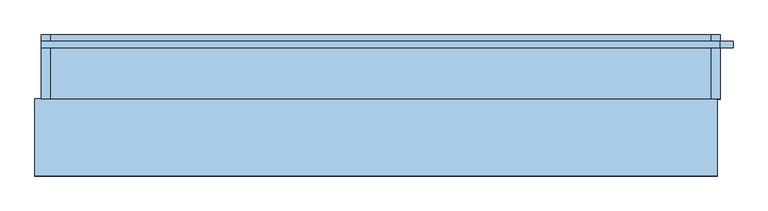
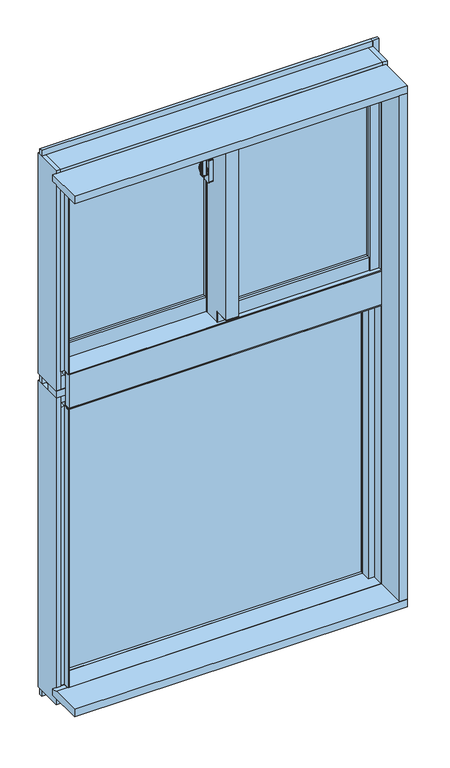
"""IFC4 building model written with IfcOpenShell, lengths in millimetres: window geometry, FNSⅡ100R_非防火_面付枠_段窓_分解無目 : 隠蔽突出排煙/FIX."""

import ifcopenshell
import ifcopenshell.guid

model = None  # the IFC model being written
_history = None  # IfcOwnerHistory: only IFC2X3 demands one
_inside = {}  # id of a spatial element -> (the spatial element, [elements in it])
_under = {}  # id of a project, library or spatial element -> (it, [spatial elements below it])
_declared = {}  # id of a project -> (the project, [libraries it declares])
_typed = {}  # id of a type object -> (the type object, [elements of that type])
_made_of = {}  # id of a material, layer set ... -> (it, [elements and type objects made of it])


def new_model(schema):
    """Start an empty IFC model of exactly this schema.

    Asked for "IFC4X3", IfcOpenShell would pick the latest addendum, in which some entities
    have other attributes; the version numbers below select the first issue.
    IFC2X3 requires an IfcOwnerHistory on every rooted entity: one is made here for all.
    """
    global model, _history
    if schema == "IFC4X3":
        model = ifcopenshell.file(schema_version=(4, 3, 0, 0))
    else:
        model = ifcopenshell.file(schema=schema)
    _inside.clear()
    _under.clear()
    _declared.clear()
    _typed.clear()
    _made_of.clear()
    _history = None
    if model.schema == "IFC2X3":
        org = make("IfcOrganization", Name="unknown")
        user = make(
            "IfcPersonAndOrganization",
            ThePerson=make("IfcPerson", FamilyName="unknown"),
            TheOrganization=org,
        )
        app = make(
            "IfcApplication",
            ApplicationDeveloper=org,
            Version="unknown",
            ApplicationFullName="unknown",
            ApplicationIdentifier="unknown",
        )
        _history = make(
            "IfcOwnerHistory",
            OwningUser=user,
            OwningApplication=app,
            ChangeAction="ADDED",
            CreationDate=0,
        )
    return model


def make(cls, **values):
    """One entity of the class cls with the attributes given. An attribute that is None is left unset."""
    return model.create_entity(
        cls, **{name: value for name, value in values.items() if value is not None}
    )


def rooted(cls, **values):
    """An entity with a GlobalId (a new one), such as an element, a storey or a relation."""
    return make(cls, GlobalId=ifcopenshell.guid.new(), OwnerHistory=_history, **values)


def si_unit(unit_type, name, prefix=None):
    """IfcSIUnit, for example si_unit("LENGTHUNIT", "METRE", prefix="MILLI")."""
    return make("IfcSIUnit", UnitType=unit_type, Prefix=prefix, Name=name)


def assignment(units):
    """IfcUnitAssignment: the units of a project."""
    return None if units is None else make("IfcUnitAssignment", Units=units)


def point(xyz):
    """IfcCartesianPoint."""
    return None if xyz is None else make("IfcCartesianPoint", Coordinates=xyz)


def direction(xyz):
    """IfcDirection."""
    return None if xyz is None else make("IfcDirection", DirectionRatios=xyz)


def frame(location, z_axis=None, x_axis=None):
    """IfcAxis2Placement3D, a coordinate frame: its origin and axes. An axis left out is left unset."""
    return make(
        "IfcAxis2Placement3D",
        Location=point(location),
        Axis=direction(z_axis),
        RefDirection=direction(x_axis),
    )


def frame_2d(location, x_axis=None):
    """IfcAxis2Placement2D, a coordinate frame in the plane: its origin and x axis."""
    return make(
        "IfcAxis2Placement2D", Location=point(location), RefDirection=direction(x_axis)
    )


def origin():
    """The frame at (0, 0, 0) with its axes left unset."""
    return frame((0.0, 0.0, 0.0))


def place(relative_to, where):
    """IfcLocalPlacement: puts the frame where relative to a parent placement (None: the world)."""
    return make(
        "IfcLocalPlacement", PlacementRelTo=relative_to, RelativePlacement=where
    )


def context(
    kind, dimensions, precision=None, world=None, true_north=None, identifier=None
):
    """IfcGeometricRepresentationContext, for example the 3D "Model" context."""
    return make(
        "IfcGeometricRepresentationContext",
        ContextIdentifier=identifier,
        ContextType=kind,
        CoordinateSpaceDimension=dimensions,
        Precision=precision,
        WorldCoordinateSystem=world,
        TrueNorth=true_north,
    )


def project(units=None, contexts=None):
    """IfcProject with its units and contexts."""
    return rooted(
        "IfcProject",
        Name="project",
        RepresentationContexts=contexts,
        UnitsInContext=assignment(units),
    )


def spatial(cls, under=None, at=None, **own):
    """A site, building, storey or space (cls), placed at a placement, below another one or the project."""
    s = rooted(cls, ObjectPlacement=at, **own)
    if under is not None:
        _under.setdefault(under.id(), (under, []))[1].append(s)
    return s


def polyline(points):
    """IfcPolyline through the points."""
    return make("IfcPolyline", Points=[point(p) for p in points])


def circle_curve(where, radius):
    """IfcCircle in the frame where."""
    return make("IfcCircle", Position=where, Radius=radius)


def trimmed(basis, trim1, trim2, sense, master):
    """IfcTrimmedCurve: the piece of a basis curve between two trims."""
    return make(
        "IfcTrimmedCurve",
        BasisCurve=basis,
        Trim1=trim1,
        Trim2=trim2,
        SenseAgreement=sense,
        MasterRepresentation=master,
    )


def segment(curve, same_sense, transition):
    """IfcCompositeCurveSegment."""
    return make(
        "IfcCompositeCurveSegment",
        Transition=transition,
        SameSense=same_sense,
        ParentCurve=curve,
    )


def composite_curve(segments, self_intersect=None):
    """IfcCompositeCurve: segments joined end to end."""
    return make("IfcCompositeCurve", Segments=segments, SelfIntersect=self_intersect)


def outline(outer, holes=None, kind="AREA"):
    """IfcArbitraryClosedProfileDef: a profile drawn as a closed curve; with holes, ...WithVoids."""
    if holes is None:
        return make("IfcArbitraryClosedProfileDef", ProfileType=kind, OuterCurve=outer)
    return make(
        "IfcArbitraryProfileDefWithVoids",
        ProfileType=kind,
        OuterCurve=outer,
        InnerCurves=holes,
    )


def extrude(swept, where, along, depth):
    """IfcExtrudedAreaSolid: the profile swept, set in the frame where, extruded along a direction by depth."""
    return make(
        "IfcExtrudedAreaSolid",
        SweptArea=swept,
        Position=where,
        ExtrudedDirection=direction(along),
        Depth=depth,
    )


def faces_of(points, faces, orient=None, outer=None):
    """IfcFace entities. A face is a list of loops; a loop is a list of indices into points, from 0.

    orient and outer hold one flag for each loop. By default every Orientation is true, the
    first loop of a face is its IfcFaceOuterBound and the others are IfcFaceBound.
    """
    made = []
    for i, loops in enumerate(faces):
        bounds = []
        for j, loop in enumerate(loops):
            is_outer = j == 0 if outer is None else outer[i][j]
            bounds.append(
                make(
                    "IfcFaceOuterBound" if is_outer else "IfcFaceBound",
                    Bound=make("IfcPolyLoop", Polygon=[points[k] for k in loop]),
                    Orientation=True if orient is None else orient[i][j],
                )
            )
        made.append(make("IfcFace", Bounds=bounds))
    return made


def faceted_brep(points, faces, orient=None, outer=None, voids=None):
    """IfcFacetedBrep: a solid bounded by flat faces; with voids (closed shells), ...WithVoids."""
    shared = [point(p) for p in points]
    hull = make("IfcClosedShell", CfsFaces=faces_of(shared, faces, orient, outer))
    if voids is None:
        return make("IfcFacetedBrep", Outer=hull)
    return make(
        "IfcFacetedBrepWithVoids",
        Outer=hull,
        Voids=[
            make(cls, CfsFaces=faces_of(shared, fs, o, b)) for cls, fs, o, b in voids
        ],
    )


def shape(context_of_items, identifier, shape_type, items):
    """IfcShapeRepresentation: the items that make up one representation, for example the "Body"."""
    return make(
        "IfcShapeRepresentation",
        ContextOfItems=context_of_items,
        RepresentationIdentifier=identifier,
        RepresentationType=shape_type,
        Items=items,
    )


def source(mapping_origin, context_of_items, identifier, shape_type, items):
    """IfcRepresentationMap: a shape defined once, which mapped items show again and again."""
    return make(
        "IfcRepresentationMap",
        MappingOrigin=mapping_origin,
        MappedRepresentation=shape(context_of_items, identifier, shape_type, items),
    )


def transform(
    local_origin,
    x_axis=None,
    y_axis=None,
    z_axis=None,
    scale=None,
    scale2=None,
    scale3=None,
    uniform=True,
):
    """IfcCartesianTransformationOperator3D, or its non-uniform kind. x_axis, y_axis, z_axis: its Axis1, 2, 3."""
    if uniform:
        return make(
            "IfcCartesianTransformationOperator3D",
            Axis1=direction(x_axis),
            Axis2=direction(y_axis),
            LocalOrigin=point(local_origin),
            Scale=scale,
            Axis3=direction(z_axis),
        )
    return make(
        "IfcCartesianTransformationOperator3DnonUniform",
        Axis1=direction(x_axis),
        Axis2=direction(y_axis),
        LocalOrigin=point(local_origin),
        Scale=scale,
        Axis3=direction(z_axis),
        Scale2=scale2,
        Scale3=scale3,
    )


def mapped(mapping_source, mapping_target):
    """IfcMappedItem: shows the shape of a source again, moved by a transform."""
    return make(
        "IfcMappedItem", MappingSource=mapping_source, MappingTarget=mapping_target
    )


def made_of(thing, what):
    """Note that an element or type object is made of a material, layer set ...; save() writes the relation."""
    if what is not None:
        _made_of.setdefault(what.id(), (what, []))[1].append(thing)
    return thing


def element(
    cls,
    number,
    at=None,
    inside=None,
    cuts=None,
    type_object=None,
    material=None,
    context=None,
    identifier="Body",
    shape_type=None,
    held_by="IfcProductDefinitionShape",
    body=None,
    shapes=None,
    **own,
):
    """One element of the class cls, such as IfcWall. Its Tag is "e" and its number.

    at: its placement. inside: the storey or other place that contains it. cuts: it is an
    opening in that element (IfcRelVoidsElement). A single representation is given by context,
    identifier, shape_type and body (its items); several are given by shapes. held_by: the class
    of the entity that holds the representations. save() writes the other relations.
    """
    e = rooted(cls, Tag="e%d" % number, ObjectPlacement=at, **own)
    if body is not None:
        shapes = [shape(context, identifier, shape_type, body)]
    if shapes is not None:
        e.Representation = make(held_by, Representations=shapes)
    if inside is not None:
        _inside.setdefault(inside.id(), (inside, []))[1].append(e)
    if cuts is not None:
        rooted(
            "IfcRelVoidsElement", RelatingBuildingElement=cuts, RelatedOpeningElement=e
        )
    if type_object is not None:
        _typed.setdefault(type_object.id(), (type_object, []))[1].append(e)
    return made_of(e, material)


def aggregate(whole, parts):
    """IfcRelAggregates: a whole, such as a stair, and the parts it consists of."""
    return rooted("IfcRelAggregates", RelatingObject=whole, RelatedObjects=parts)


def save(model, path):
    """Write the relations noted so far, then the file.

    IfcRelAggregates (storeys below a building ...), IfcRelContainedInSpatialStructure (elements
    in a storey), IfcRelDefinesByType, IfcRelAssociatesMaterial and IfcRelDeclares: one each for
    every whole, place, type object, material and project.
    """
    for whole, parts in _under.values():
        aggregate(whole, parts)
    for where, things in _inside.values():
        rooted(
            "IfcRelContainedInSpatialStructure",
            RelatedElements=things,
            RelatingStructure=where,
        )
    for kind, things in _typed.values():
        rooted("IfcRelDefinesByType", RelatedObjects=things, RelatingType=kind)
    for what, things in _made_of.values():
        rooted("IfcRelAssociatesMaterial", RelatedObjects=things, RelatingMaterial=what)
    for by, libraries in _declared.values():
        rooted("IfcRelDeclares", RelatingContext=by, RelatedDefinitions=libraries)
    model.write(path)


def plane_surface(at):
    """IfcPlane: the flat surface through the origin of the frame at, square to its z axis."""
    return make("IfcPlane", Position=at)


def cylinder_surface(at, radius):
    """IfcCylindricalSurface: all points at the distance radius from the z axis of the frame at."""
    return make("IfcCylindricalSurface", Position=at, Radius=radius)


def revolved_surface(curve, axis_point, axis_direction):
    """IfcSurfaceOfRevolution: the curve turned about the line through axis_point along axis_direction."""
    return make(
        "IfcSurfaceOfRevolution",
        SweptCurve=make("IfcArbitraryOpenProfileDef", ProfileType="CURVE", Curve=curve),
        AxisPosition=make("IfcAxis1Placement", Location=point(axis_point), Axis=direction(axis_direction)),
    )


def advanced_brep(points, edges, surfaces, faces):
    """IfcAdvancedBrep: a solid bounded by faces that lie on surfaces and meet in shared edges.

    An edge is (start, end): straight between two places in points (the first is 0);
    or (start, end, curve); or (start, end, curve, False) where it runs against its curve.
    A face is (place in surfaces, loops), or (place, loops, False) where it looks against
    its surface's normal. A loop lists edges by number (the first is 1), with a minus sign
    where the edge is run from its end to its start. The first loop is the outer one.
    """
    corners = [point(p) for p in points]
    vertices = [make("IfcVertexPoint", VertexGeometry=c) for c in corners]
    made = []
    for start, end, *more in edges:
        made.append(
            make(
                "IfcEdgeCurve",
                EdgeStart=vertices[start],
                EdgeEnd=vertices[end],
                EdgeGeometry=more[0] if more else make("IfcPolyline", Points=[corners[start], corners[end]]),
                SameSense=more[1] if len(more) > 1 else True,
            )
        )
    hull = []
    for where, loops, *sense in faces:
        bounds = []
        for j, loop in enumerate(loops):
            ring = [make("IfcOrientedEdge", EdgeElement=made[abs(k) - 1], Orientation=k > 0) for k in loop]
            bounds.append(
                make(
                    "IfcFaceOuterBound" if j == 0 else "IfcFaceBound",
                    Bound=make("IfcEdgeLoop", EdgeList=ring),
                    Orientation=True,
                )
            )
        hull.append(make("IfcAdvancedFace", Bounds=bounds, FaceSurface=surfaces[where], SameSense=sense[0] if sense else True))
    return make("IfcAdvancedBrep", Outer=make("IfcClosedShell", CfsFaces=hull))


def window_ac38dc56(model_context):
    return source(origin(), model_context, "Body", "SolidModel", [
        extrude(outline(composite_curve([segment(polyline([(-39.0, 34.6), (-39.0, 26.4)]), True, "CONTINUOUS"), segment(trimmed(circle_curve(frame_2d((-41.0, 26.4)), 2.0), [point((-39.0, 26.4))], [point((-41.3606557, 24.4327869))], False, "CARTESIAN"), True, "CONTINUOUS"), segment(polyline([(-41.3606557, 24.4327869), (-52.3606557, 26.4494536)]), True, "CONTINUOUS"), segment(trimmed(circle_curve(frame_2d((-52.0, 28.4166667)), 2.0), [point((-52.3606557, 26.4494536))], [point((-54.0, 28.4166667))], False, "CARTESIAN"), True, "CONTINUOUS"), segment(polyline([(-54.0, 28.4166667), (-54.0, 32.5833333)]), True, "CONTINUOUS"), segment(trimmed(circle_curve(frame_2d((-52.0, 32.5833333)), 2.0), [point((-54.0, 32.5833333))], [point((-52.3606557, 34.5505464))], False, "CARTESIAN"), True, "CONTINUOUS"), segment(polyline([(-52.3606557, 34.5505464), (-41.3606557, 36.5672131)]), True, "CONTINUOUS"), segment(trimmed(circle_curve(frame_2d((-41.0, 34.6)), 2.0), [point((-41.3606557, 36.5672131))], [point((-39.0, 34.6))], False, "CARTESIAN"), True, "CONTINUOUS")], self_intersect=False)), frame((0.0, 0.0, 2450.0), z_axis=(0.0, 0.0, 1.0), x_axis=(1.0, 0.0, 0.0)), (0.0, 0.0, 1.0), 100.0),
        advanced_brep(
        [(-37.5, 38.8234285, 2481.7333311), (-45.5, 38.8234285, 2481.7333311), (-45.5, 38.4351999, 2480.2844424), (-39.0, 38.4351999, 2480.2844424), (-39.0, 36.6234666, 2473.5229616), (-37.5, 36.6234666, 2473.5229616), (-39.0, 36.6466117, 2439.3190372), (-45.5, 36.6466117, 2439.3190372), (-45.5, 36.907084, 2437.8418256), (-37.5, 36.907084, 2437.8418256), (-37.5, 35.4310745, 2446.2126915), (-39.0, 35.4310745, 2446.2126915)],
        [
            (0, 1),
            (1, 2),
            (2, 3),
            (3, 4),
            (4, 5),
            (5, 0),
            (6, 7),
            (7, 8),
            (8, 9),
            (9, 10),
            (10, 11),
            (11, 6),
            (0, 9, circle_curve(frame((-37.5, 33.0, 2460.0), z_axis=(-1.0, 0.0, 0.0), x_axis=(0.0, 0.25881904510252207, 0.965925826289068)), 22.5)),
            (8, 1, circle_curve(frame((-45.5, 33.0, 2460.0), z_axis=(1.0, 0.0, 0.0), x_axis=(0.0, 0.25881904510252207, 0.965925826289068)), 22.5)),
            (7, 2, circle_curve(frame((-45.5, 33.0, 2460.0), z_axis=(1.0, 0.0, 0.0), x_axis=(0.0, 0.25881904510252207, 0.965925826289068)), 21.0)),
            (6, 3, circle_curve(frame((-39.0, 33.0, 2460.0), z_axis=(1.0, 0.0, 0.0), x_axis=(0.0, 0.25881904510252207, 0.965925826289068)), 21.0)),
            (11, 4, circle_curve(frame((-39.0, 33.0, 2460.0), z_axis=(-1.0, 0.0, 0.0), x_axis=(0.0, -1.0, 0.0)), 14.0)),
            (5, 10, circle_curve(frame((-37.5, 33.0, 2460.0), z_axis=(1.0, 0.0, 0.0), x_axis=(0.0, -1.0, 0.0)), 14.0)),
        ],
        [
            plane_surface(frame((-43.5470497, 33.0, 2460.0), z_axis=(0.0, -0.965925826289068, 0.25881904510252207), x_axis=(0.0, 0.25881904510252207, 0.965925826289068))),
            plane_surface(frame((-43.5470497, 33.0, 2460.0), z_axis=(0.0, -0.9848077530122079, -0.17364817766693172), x_axis=(0.0, 0.17364817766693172, -0.9848077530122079))),
            cylinder_surface(frame((-43.5470497, 33.0, 2460.0), z_axis=(-1.0, 0.0, 0.0), x_axis=(0.0, 0.25881904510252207, 0.965925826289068)), 22.5),
            plane_surface(frame((-45.5, 33.0, 2460.0), z_axis=(-1.0, 0.0, 0.0), x_axis=(0.0, 0.25881904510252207, 0.965925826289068))),
            revolved_surface(polyline([(-45.5, 38.43519994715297, 2480.2844423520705), (-39.0, 38.43519994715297, 2480.2844423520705)]), (-43.5470497, 33.0, 2460.0), (-1.0, 0.0, 0.0)),
            plane_surface(frame((-39.0, 33.0, 2460.0), z_axis=(-1.0, 0.0, 0.0), x_axis=(0.0, 0.25881904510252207, 0.965925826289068))),
            plane_surface(frame((-37.5, 33.0, 2460.0), z_axis=(1.0, 0.0, 0.0), x_axis=(0.0, 0.25881904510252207, 0.965925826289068))),
            cylinder_surface(frame((-37.5, 33.0, 2460.0), z_axis=(-1.0, 0.0, 0.0), x_axis=(0.0, -1.0, 0.0)), 14.0),
        ],
        [
            (0, [[1, 2, 3, 4, 5, 6]]),
            (1, [[7, 8, 9, 10, 11, 12]]),
            (2, [[-1, 13, -9, 14]]),
            (3, [[-2, -14, -8, 15]]),
            (4, [[-3, -15, -7, 16]]),
            (5, [[-16, -12, 17, -4]]),
            (6, [[-13, -6, 18, -10]]),
            (7, [[-17, -11, -18, -5]]),
        ],
    ),
        extrude(outline(composite_curve([segment(trimmed(circle_curve(frame_2d((33.0, 2460.0)), 11.5), [point((44.5, 2460.0))], [point((21.5, 2460.0))], False, "CARTESIAN"), True, "CONTINUOUS"), segment(trimmed(circle_curve(frame_2d((33.0, 2460.0)), 11.5), [point((21.5, 2460.0))], [point((44.5, 2460.0))], False, "CARTESIAN"), True, "CONTINUOUS")], self_intersect=False)), frame((-37.5, 0.0, 0.0), z_axis=(1.0, 0.0, 0.0), x_axis=(0.0, 1.0, 0.0)), (0.0, 0.0, 1.0), 2.5),
        extrude(outline(composite_curve([segment(polyline([(24.0, 2497.5), (42.0, 2497.5)]), True, "CONTINUOUS"), segment(trimmed(circle_curve(frame_2d((42.0, 2495.5)), 2.0), [point((42.0, 2497.5))], [point((44.0, 2495.5))], False, "CARTESIAN"), True, "CONTINUOUS"), segment(polyline([(44.0, 2495.5), (44.0, 2424.5)]), True, "CONTINUOUS"), segment(trimmed(circle_curve(frame_2d((42.0, 2424.5)), 2.0), [point((44.0, 2424.5))], [point((42.0, 2422.5))], False, "CARTESIAN"), True, "CONTINUOUS"), segment(polyline([(42.0, 2422.5), (24.0, 2422.5)]), True, "CONTINUOUS"), segment(trimmed(circle_curve(frame_2d((24.0, 2424.5)), 2.0), [point((24.0, 2422.5))], [point((22.0, 2424.5))], False, "CARTESIAN"), True, "CONTINUOUS"), segment(polyline([(22.0, 2424.5), (22.0, 2495.5)]), True, "CONTINUOUS"), segment(trimmed(circle_curve(frame_2d((24.0, 2495.5)), 2.0), [point((22.0, 2495.5))], [point((24.0, 2497.5))], False, "CARTESIAN"), True, "CONTINUOUS")], self_intersect=False)), frame((-35.0, 0.0, 0.0), z_axis=(1.0, 0.0, 0.0), x_axis=(0.0, 1.0, 0.0)), (0.0, 0.0, 1.0), 15.0),
        extrude(outline(polyline([(20.0, 24.0), (468.0, 24.0), (468.0, 18.0), (20.0, 18.0), (20.0, 24.0)])), frame((0.0, 0.0, 2008.0), z_axis=(0.0, 0.0, 1.0), x_axis=(1.0, 0.0, 0.0)), (0.0, 0.0, 1.0), 562.0),
        extrude(outline(polyline([(20.0, 42.0), (468.0, 42.0), (468.0, 36.0), (20.0, 36.0), (20.0, 42.0)])), frame((0.0, 0.0, 2008.0), z_axis=(0.0, 0.0, 1.0), x_axis=(1.0, 0.0, 0.0)), (0.0, 0.0, 1.0), 562.0),
        extrude(outline(polyline([(-468.0, 82.0), (-20.0, 82.0), (-20.0, 76.0), (-468.0, 76.0), (-468.0, 82.0)])), frame((0.0, 0.0, 2008.0), z_axis=(0.0, 0.0, 1.0), x_axis=(1.0, 0.0, 0.0)), (0.0, 0.0, 1.0), 562.0),
        extrude(outline(polyline([(-468.0, 100.0), (-20.0, 100.0), (-20.0, 94.0), (-468.0, 94.0), (-468.0, 100.0)])), frame((0.0, 0.0, 2008.0), z_axis=(0.0, 0.0, 1.0), x_axis=(1.0, 0.0, 0.0)), (0.0, 0.0, 1.0), 562.0),
        faceted_brep([(-500.0, 79.0, 2610.0), (-489.5, 79.0, 2610.0), (-489.5, 66.0, 2610.0), (-468.0, 66.0, 2610.0), (-468.0, 108.0, 2610.0), (-500.0, 108.0, 2610.0), (-468.0, 66.0, 1960.0), (-468.0, 79.0, 1960.0), (-468.0, 79.0, 1920.0), (-468.0, 108.0, 1920.0), (-500.0, 79.0, 1920.0), (-500.0, 108.0, 1920.0), (-489.5, 79.0, 1960.0), (-489.5, 66.0, 1960.0)], [[[0, 1, 2, 3, 4, 5]], [[4, 3, 6, 7, 8, 9]], [[10, 0, 5, 11]], [[8, 10, 11, 9]], [[1, 0, 10, 8, 7, 12]], [[2, 1, 12, 13]], [[3, 2, 13, 6]], [[5, 4, 9, 11]], [[12, 7, 6, 13]]]),
        faceted_brep([(20.0, 79.0, 1960.0), (-20.0, 79.0, 1960.0), (-20.0, 79.0, 1920.0), (20.0, 79.0, 1920.0), (-20.0, 108.0, 1920.0), (20.0, 108.0, 1920.0), (-20.0, 65.5, 2610.0), (-1.8, 65.5, 2610.0), (-1.8, 53.1, 2610.0), (20.0, 53.1, 2610.0), (20.0, 108.0, 2610.0), (-20.0, 108.0, 2610.0), (-20.0, 65.5, 1960.0), (-1.8, 65.5, 1960.0), (-1.8, 53.1, 1960.0), (20.0, 53.1, 1960.0)], [[[0, 1, 2, 3]], [[4, 5, 3, 2]], [[6, 7, 8, 9, 10, 11]], [[7, 6, 12, 13]], [[8, 7, 13, 14]], [[9, 8, 14, 15]], [[10, 9, 15, 0, 3, 5]], [[11, 10, 5, 4]], [[6, 11, 4, 2, 1, 12]], [[1, 0, 15, 14, 13, 12]]]),
        faceted_brep([(-15.0, 53.1, 2610.0), (-20.0, 53.1, 2610.0), (-20.0, 0.0, 2610.0), (-15.0, 0.0, 2610.0), (20.0, 12.0, 2610.0), (15.0, 12.0, 2610.0), (15.0, 0.0, 2610.0), (20.0, 0.0, 2610.0), (-20.0, 53.1, 1960.0), (-20.0, 0.0, 1960.0), (-20.0, 0.0, 1996.5), (-20.0, -50.0, 1996.5), (-20.0, -50.0, 2581.0), (-20.0, 0.0, 2581.0), (15.0, -42.0, 2581.0), (15.0, -42.0, 1996.5), (-15.0, -42.0, 1996.5), (-15.0, -42.0, 2581.0), (-15.0, 53.1, 1960.0), (-15.0, 0.0, 2581.0), (-15.0, 0.0, 1996.5), (-15.0, 0.0, 1960.0), (20.0, 12.0, 1960.0), (20.0, 0.0, 2581.0), (20.0, -50.0, 2581.0), (20.0, -50.0, 1996.5), (20.0, 0.0, 1996.5), (20.0, 0.0, 1960.0), (15.0, 12.0, 1960.0), (15.0, 0.0, 1960.0), (15.0, 0.0, 1996.5), (15.0, 0.0, 2581.0)], [[[0, 1, 2, 3]], [[4, 5, 6, 7]], [[1, 8, 9, 10, 11, 12, 13, 2]], [[14, 15, 16, 17]], [[18, 0, 3, 19, 17, 16, 20, 21]], [[22, 4, 7, 23, 24, 25, 26, 27]], [[1, 0, 18, 8]], [[8, 18, 21, 9]], [[28, 22, 27, 29]], [[12, 11, 25, 24]], [[5, 4, 22, 28]], [[5, 28, 29, 30, 15, 14, 31, 6]], [[20, 10, 9, 21]], [[26, 30, 29, 27]], [[10, 20, 16, 15, 30, 26, 25, 11]], [[19, 13, 12, 24, 23, 31, 14, 17]], [[13, 19, 3, 2]], [[31, 23, 7, 6]]]),
        faceted_brep([(15.0, 12.0, 2610.0), (20.0, 12.0, 2610.0), (20.0, 53.1, 2610.0), (-15.0, 53.1, 2610.0), (-15.0, 0.0, 2610.0), (15.0, 0.0, 2610.0), (-15.0, -42.0, 2581.0), (-15.0, -42.0, 1996.5), (15.0, -42.0, 1996.5), (15.0, -42.0, 2581.0), (20.0, 53.1, 1960.0), (-15.0, 53.1, 1960.0), (15.0, 0.0, 2581.0), (-15.0, 0.0, 2581.0), (20.0, 12.0, 1960.0), (15.0, 12.0, 1960.0), (15.0, 0.0, 1960.0), (-15.0, 0.0, 1960.0), (-15.0, 0.0, 1996.5), (15.0, 0.0, 1996.5)], [[[0, 1, 2, 3, 4, 5]], [[6, 7, 8, 9]], [[3, 2, 10, 11]], [[12, 13, 6, 9]], [[11, 10, 14, 15, 16, 17]], [[2, 1, 14, 10]], [[3, 11, 17, 18, 7, 6, 13, 4]], [[19, 18, 17, 16]], [[18, 19, 8, 7]], [[13, 12, 5, 4]], [[15, 0, 5, 12, 9, 8, 19, 16]], [[1, 0, 15, 14]]]),
        extrude(outline(polyline([(468.0, 0.0), (468.0, 8.0), (489.5, 8.0), (489.5, 21.0), (497.0, 21.0), (497.0, 0.0), (468.0, 0.0)])), frame((0.0, 0.0, 1963.0), z_axis=(0.0, 0.0, 1.0), x_axis=(1.0, 0.0, 0.0)), (0.0, 0.0, 1.0), 647.0),
        extrude(outline(polyline([(468.0, 50.0), (500.0, 50.0), (500.0, 21.0), (489.5, 21.0), (489.5, 8.0), (468.0, 8.0), (468.0, 50.0)])), frame((0.0, 0.0, 1960.0), z_axis=(0.0, 0.0, 1.0), x_axis=(1.0, 0.0, 0.0)), (0.0, 0.0, 1.0), 650.0),
        extrude(outline(polyline([(-1.85, 65.5), (-1.85, 58.0), (-20.0, 58.0), (-20.0, 65.5), (-1.85, 65.5)])), frame((0.0, 0.0, 1960.0), z_axis=(0.0, 0.0, 1.0), x_axis=(1.0, 0.0, 0.0)), (0.0, 0.0, 1.0), 650.0),
        extrude(outline(polyline([(-497.0, 79.0), (-489.5, 79.0), (-489.5, 66.0), (-468.0, 66.0), (-468.0, 58.0), (-497.0, 58.0), (-497.0, 79.0)])), frame((0.0, 0.0, 1960.0), z_axis=(0.0, 0.0, 1.0), x_axis=(1.0, 0.0, 0.0)), (0.0, 0.0, 1.0), 650.0),
        extrude(outline(polyline([(2.0, 1963.0), (2.0, 2008.0), (10.0, 2008.0), (10.0, 1985.5), (21.0, 1985.5), (21.0, 1963.0), (2.0, 1963.0)])), frame((20.0, 0.0, 0.0), z_axis=(1.0, 0.0, 0.0), x_axis=(0.0, 1.0, 0.0)), (0.0, 0.0, 1.0), 448.0),
        extrude(outline(polyline([(50.0, 1960.0), (21.0, 1960.0), (21.0, 1985.5), (10.0, 1985.5), (10.0, 2008.0), (50.0, 2008.0), (50.0, 1960.0)])), frame((20.0, 0.0, 0.0), z_axis=(1.0, 0.0, 0.0), x_axis=(0.0, 1.0, 0.0)), (0.0, 0.0, 1.0), 448.0),
        extrude(outline(polyline([(60.0, 2008.0), (68.0, 2008.0), (68.0, 1985.5), (79.0, 1985.5), (79.0, 1960.0), (60.0, 1960.0), (60.0, 2008.0)])), frame((-468.0, 0.0, 0.0), z_axis=(1.0, 0.0, 0.0), x_axis=(0.0, 1.0, 0.0)), (0.0, 0.0, 1.0), 448.0),
        extrude(outline(polyline([(108.0, 1920.0), (79.0, 1920.0), (79.0, 1985.5), (68.0, 1985.5), (68.0, 2008.0), (108.0, 2008.0), (108.0, 1920.0)])), frame((-468.0, 0.0, 0.0), z_axis=(1.0, 0.0, 0.0), x_axis=(0.0, 1.0, 0.0)), (0.0, 0.0, 1.0), 448.0),
        extrude(outline(polyline([(23.0, 2590.5), (10.0, 2590.5), (10.0, 2570.0), (2.0, 2570.0), (2.0, 2610.0), (23.0, 2610.0), (23.0, 2590.5)])), frame((20.0, 0.0, 0.0), z_axis=(1.0, 0.0, 0.0), x_axis=(0.0, 1.0, 0.0)), (0.0, 0.0, 1.0), 448.0),
        extrude(outline(polyline([(50.0, 2610.0), (50.0, 2570.0), (10.0, 2570.0), (10.0, 2590.5), (23.0, 2590.5), (23.0, 2610.0), (50.0, 2610.0)])), frame((20.0, 0.0, 0.0), z_axis=(1.0, 0.0, 0.0), x_axis=(0.0, 1.0, 0.0)), (0.0, 0.0, 1.0), 448.0),
        extrude(outline(polyline([(81.0, 2590.5), (68.0, 2590.5), (68.0, 2570.0), (60.0, 2570.0), (60.0, 2610.0), (81.0, 2610.0), (81.0, 2590.5)])), frame((-468.0, 0.0, 0.0), z_axis=(1.0, 0.0, 0.0), x_axis=(0.0, 1.0, 0.0)), (0.0, 0.0, 1.0), 448.0),
        extrude(outline(polyline([(108.0, 2610.0), (108.0, 2570.0), (68.0, 2570.0), (68.0, 2590.5), (81.0, 2590.5), (81.0, 2610.0), (108.0, 2610.0)])), frame((-468.0, 0.0, 0.0), z_axis=(1.0, 0.0, 0.0), x_axis=(0.0, 1.0, 0.0)), (0.0, 0.0, 1.0), 448.0),
        extrude(outline(polyline([(0.0, 2581.0), (-50.0, 2581.0), (-50.0, 2582.0), (-1.0, 2582.0), (-1.0, 2610.0), (0.0, 2610.0), (0.0, 2581.0)])), frame((-20.0, 0.0, 0.0), z_axis=(1.0, 0.0, 0.0), x_axis=(0.0, 1.0, 0.0)), (0.0, 0.0, 1.0), 40.0),
        extrude(outline(polyline([(0.0, 1996.5), (0.0, 1960.0), (-1.0, 1960.0), (-1.0, 1995.5), (-50.0, 1995.5), (-50.0, 1996.5), (0.0, 1996.5)])), frame((-20.0, 0.0, 0.0), z_axis=(1.0, 0.0, 0.0), x_axis=(0.0, 1.0, 0.0)), (0.0, 0.0, 1.0), 40.0),
        extrude(outline(polyline([(-15.0, 80.3), (-15.0, 31.9), (-500.0, 31.9), (-500.0, 80.3), (-15.0, 80.3)])), frame((0.0, 0.0, 2610.0), z_axis=(0.0, 0.0, 1.0), x_axis=(1.0, 0.0, 0.0)), (0.0, 0.0, 1.0), 25.0),
        faceted_brep([(515.0, 80.3, 2635.0), (515.0, 10.0, 2635.0), (-515.0, 10.0, 2635.0), (-515.0, 80.3, 2635.0), (-15.0, 80.3, 2635.0), (-15.0, 31.9, 2635.0), (500.0, 31.9, 2635.0), (500.0, 80.3, 2635.0), (515.0, 80.3, 2610.0), (500.0, 80.3, 2610.0), (-515.0, 80.3, 2610.0), (-15.0, 80.3, 2610.0), (515.0, 110.0, 2610.0), (500.0, 31.9, 2610.0), (-15.0, 31.9, 2610.0), (-515.0, 110.0, 2610.0), (515.0, 110.0, 2645.0), (-515.0, 110.0, 2645.0), (515.0, 10.0, 2645.0), (-515.0, 10.0, 2645.0)], [[[0, 1, 2, 3, 4, 5, 6, 7]], [[8, 0, 7, 9]], [[3, 10, 11, 4]], [[12, 8, 9, 13, 14, 11, 10, 15]], [[16, 12, 15, 17]], [[18, 16, 17, 19]], [[1, 18, 19, 2]], [[12, 16, 18, 1, 0, 8]], [[15, 10, 3, 2, 19, 17]], [[6, 13, 9, 7]], [[11, 14, 5, 4]], [[13, 6, 5, 14]]]),
        extrude(outline(polyline([(31.9, 2610.0), (-10.0, 2610.0), (-10.0, 2613.0), (10.0, 2613.0), (10.0, 2635.0), (31.9, 2635.0), (31.9, 2610.0)])), frame((-500.0, 0.0, 0.0), z_axis=(1.0, 0.0, 0.0), x_axis=(0.0, 1.0, 0.0)), (0.0, 0.0, 1.0), 1000.0),
        faceted_brep([(503.0, -10.0, 1960.0), (503.0, 10.0, 1960.0), (503.0, 10.0, 2613.0), (503.0, -10.0, 2613.0), (500.0, -10.0, 1960.0), (500.0, -10.0, 2613.0), (500.0, 10.0, 2630.0), (515.0, 10.0, 2630.0), (515.0, 14.5, 2630.0), (500.0, 14.5, 2630.0), (500.0, 14.5, 1960.0), (515.0, 14.5, 1960.0), (515.0, 10.0, 1960.0), (500.0, 10.0, 2613.0)], [[[0, 1, 2, 3]], [[4, 0, 3, 5]], [[6, 7, 8, 9]], [[4, 10, 11, 12, 1, 0]], [[6, 13, 2, 1, 12, 7]], [[8, 7, 12, 11]], [[9, 8, 11, 10]], [[10, 4, 5, 13, 6, 9]], [[2, 13, 5, 3]]]),
        faceted_brep([(-515.0, 10.0, 1960.0), (-503.0, 10.0, 1960.0), (-503.0, 10.0, 2613.0), (-500.0, 10.0, 2613.0), (-500.0, 10.0, 2630.0), (-515.0, 10.0, 2630.0), (-500.0, 76.0, 2630.0), (-515.0, 76.0, 2630.0), (-515.0, 76.0, 1960.0), (-500.0, 76.0, 1960.0), (-500.0, -10.0, 1960.0), (-503.0, -10.0, 1960.0), (-503.0, -10.0, 2613.0), (-500.0, -10.0, 2613.0)], [[[0, 1, 2, 3, 4, 5]], [[5, 4, 6, 7]], [[0, 8, 9, 10, 11, 1]], [[1, 11, 12, 2]], [[11, 10, 13, 12]], [[10, 9, 6, 4, 3, 13]], [[7, 6, 9, 8]], [[0, 5, 7, 8]], [[3, 2, 12, 13]]]),
        faceted_brep([(-530.0, 10.0, 2645.0), (-530.0, 110.0, 2645.0), (-530.0, 110.0, 1900.0), (-530.0, 10.0, 1900.0), (-515.0, 110.0, 2645.0), (-515.0, 10.0, 2645.0), (-515.0, 10.0, 1900.0), (-515.0, 110.0, 1900.0), (-515.0, 110.0, 1909.0), (-515.0, 76.0, 1909.0), (-515.0, 76.0, 2610.0), (-515.0, 110.0, 2610.0), (-500.0, 110.0, 2610.0), (-500.0, 110.0, 1909.0), (-500.0, 76.0, 2610.0), (-500.0, 76.0, 1909.0)], [[[0, 1, 2, 3]], [[4, 5, 6, 7, 8, 9, 10, 11]], [[1, 0, 5, 4]], [[2, 7, 6, 3]], [[5, 0, 3, 6]], [[1, 4, 11, 12, 13, 8, 7, 2]], [[12, 11, 10, 14]], [[13, 15, 9, 8]], [[14, 10, 9, 15]], [[12, 14, 15, 13]]]),
        faceted_brep([(515.0, 14.5, 2610.0), (500.0, 14.5, 2610.0), (500.0, 14.5, 1909.0), (515.0, 14.5, 1909.0), (500.0, 110.0, 2610.0), (500.0, 110.0, 1909.0), (515.0, 10.0, 2645.0), (530.0, 10.0, 2645.0), (530.0, 110.0, 2645.0), (515.0, 110.0, 2645.0), (515.0, 10.0, 1900.0), (515.0, 110.0, 1900.0), (530.0, 110.0, 1900.0), (530.0, 10.0, 1900.0), (515.0, 110.0, 2610.0), (515.0, 110.0, 1909.0)], [[[0, 1, 2, 3]], [[1, 4, 5, 2]], [[6, 7, 8, 9]], [[10, 11, 12, 13]], [[1, 0, 14, 4]], [[2, 5, 15, 3]], [[7, 6, 10, 13]], [[8, 7, 13, 12]], [[9, 8, 12, 11, 15, 5, 4, 14]], [[6, 9, 14, 0, 3, 15, 11, 10]]]),
        faceted_brep([(515.0, 76.0, 1909.0), (515.0, 110.0, 1909.0), (-515.0, 110.0, 1909.0), (-515.0, 76.0, 1909.0), (515.0, 10.0, 1944.0), (515.0, 76.0, 1944.0), (-515.0, 76.0, 1944.0), (-515.0, 10.0, 1944.0), (500.0, 37.25, 1944.0), (500.0, 18.8, 1944.0), (-15.0, 18.8, 1944.0), (-15.0, 37.25, 1944.0), (515.0, 110.0, 1900.0), (515.0, 10.0, 1900.0), (-515.0, 10.0, 1900.0), (-515.0, 110.0, 1900.0), (500.0, 18.8, 1960.0), (500.0, 37.25, 1960.0), (-15.0, 18.8, 1960.0), (-15.0, 37.25, 1960.0)], [[[0, 1, 2, 3]], [[4, 5, 6, 7], [8, 9, 10, 11]], [[5, 0, 3, 6]], [[12, 13, 14, 15]], [[12, 1, 0, 5, 4, 13]], [[15, 14, 7, 6, 3, 2]], [[13, 4, 7, 14]], [[1, 12, 15, 2]], [[16, 9, 8, 17]], [[18, 19, 11, 10]], [[9, 16, 18, 10]], [[17, 8, 11, 19]], [[16, 17, 19, 18]]]),
        faceted_brep([(503.0, 10.0, 1944.0), (503.0, 10.0, 1957.0), (-503.0, 10.0, 1957.0), (-503.0, 10.0, 1944.0), (503.0, -10.0, 1957.0), (-503.0, -10.0, 1957.0), (503.0, -10.0, 1960.0), (-503.0, -10.0, 1960.0), (-503.0, 18.8, 1960.0), (503.0, 14.5, 1960.0), (500.0, 14.5, 1960.0), (500.0, 18.8, 1960.0), (-15.0, 18.8, 1960.0), (-15.0, 76.0, 1960.0), (-500.0, 76.0, 1960.0), (-500.0, 18.8, 1960.0), (500.0, 14.5, 1944.0), (503.0, 14.5, 1944.0), (-503.0, 18.8, 1944.0), (-500.0, 18.8, 1944.0), (500.0, 18.8, 1944.0), (-15.0, 18.8, 1944.0), (-500.0, 76.0, 1944.0), (-15.0, 76.0, 1944.0)], [[[0, 1, 2, 3]], [[1, 4, 5, 2]], [[4, 6, 7, 5]], [[8, 7, 6, 9, 10, 11, 12, 13, 14, 15]], [[16, 10, 9, 17]], [[6, 4, 1, 0, 17, 9]], [[3, 2, 5, 7, 8, 18]], [[18, 8, 15, 19]], [[11, 20, 21, 12]], [[3, 18, 19, 22, 23, 21, 20, 16, 17, 0]], [[10, 16, 20, 11]], [[13, 12, 21, 23]], [[14, 22, 19, 15]], [[13, 23, 22, 14]]]),
        extrude(outline(polyline([(-480.0, 75.6), (480.0, 75.6), (480.0, 69.6), (-480.0, 69.6), (-480.0, 75.6)])), frame((0.0, 0.0, 900.0), z_axis=(0.0, 0.0, 1.0), x_axis=(1.0, 0.0, 0.0)), (0.0, 0.0, 1.0), 920.0),
        extrude(outline(polyline([(-480.0, 93.6), (480.0, 93.6), (480.0, 87.6), (-480.0, 87.6), (-480.0, 93.6)])), frame((0.0, 0.0, 900.0), z_axis=(0.0, 0.0, 1.0), x_axis=(1.0, 0.0, 0.0)), (0.0, 0.0, 1.0), 920.0),
        faceted_brep([(-530.0, 110.0, 1875.0), (-530.0, 10.0, 1875.0), (-515.0, 10.0, 1875.0), (-515.0, 110.0, 1875.0), (-530.0, 110.0, 840.0), (-515.0, 110.0, 840.0), (-515.0, 10.0, 840.0), (-530.0, 10.0, 840.0), (-515.0, 110.0, 900.0), (-515.0, 60.0, 900.0), (-515.0, 60.0, 1820.0), (-515.0, 110.0, 1820.0), (-480.0, 110.0, 1820.0), (-480.0, 110.0, 900.0), (-480.0, 60.0, 1820.0), (-480.0, 60.0, 900.0)], [[[0, 1, 2, 3]], [[4, 5, 6, 7]], [[1, 0, 4, 7]], [[2, 1, 7, 6]], [[3, 2, 6, 5, 8, 9, 10, 11]], [[0, 3, 11, 12, 13, 8, 5, 4]], [[12, 11, 10, 14]], [[13, 15, 9, 8]], [[14, 10, 9, 15]], [[12, 14, 15, 13]]]),
        faceted_brep([(530.0, 110.0, 1875.0), (515.0, 110.0, 1875.0), (515.0, 10.0, 1875.0), (530.0, 10.0, 1875.0), (530.0, 110.0, 840.0), (530.0, 10.0, 840.0), (515.0, 10.0, 840.0), (515.0, 110.0, 840.0), (515.0, 110.0, 900.0), (480.0, 110.0, 900.0), (480.0, 110.0, 1820.0), (515.0, 110.0, 1820.0), (515.0, 60.0, 1820.0), (515.0, 60.0, 900.0), (480.0, 60.0, 1820.0), (480.0, 60.0, 900.0)], [[[0, 1, 2, 3]], [[4, 5, 6, 7]], [[1, 0, 4, 7, 8, 9, 10, 11]], [[2, 1, 11, 12, 13, 8, 7, 6]], [[3, 2, 6, 5]], [[0, 3, 5, 4]], [[11, 10, 14, 12]], [[13, 15, 9, 8]], [[14, 10, 9, 15]], [[12, 14, 15, 13]]]),
        extrude(outline(polyline([(500.0, -10.0), (500.0, 28.5), (480.0, 28.5), (480.0, 60.0), (515.0, 60.0), (515.0, 10.0), (503.0, 10.0), (503.0, -10.0), (500.0, -10.0)])), frame((0.0, 0.0, 900.0), z_axis=(0.0, 0.0, 1.0), x_axis=(1.0, 0.0, 0.0)), (0.0, 0.0, 1.0), 940.0),
        extrude(outline(polyline([(-515.0, 10.0), (-515.0, 60.0), (-480.0, 60.0), (-480.0, 28.5), (-500.0, 28.5), (-500.0, -10.0), (-503.0, -10.0), (-503.0, 10.0), (-515.0, 10.0)])), frame((0.0, 0.0, 900.0), z_axis=(0.0, 0.0, 1.0), x_axis=(1.0, 0.0, 0.0)), (0.0, 0.0, 1.0), 940.0),
        extrude(outline(polyline([(10.0, 884.0), (10.0, 897.0), (-10.0, 897.0), (-10.0, 900.0), (60.0, 900.0), (60.0, 884.0), (10.0, 884.0)])), frame((-503.0, 0.0, 0.0), z_axis=(1.0, 0.0, 0.0), x_axis=(0.0, 1.0, 0.0)), (0.0, 0.0, 1.0), 1006.0),
        extrude(outline(polyline([(110.0, 840.0), (10.0, 840.0), (10.0, 884.0), (60.0, 884.0), (60.0, 900.0), (110.0, 900.0), (110.0, 870.0), (91.0, 870.0), (91.0, 850.0), (110.0, 850.0), (110.0, 840.0)])), frame((-515.0, 0.0, 0.0), z_axis=(1.0, 0.0, 0.0), x_axis=(0.0, 1.0, 0.0)), (0.0, 0.0, 1.0), 1030.0),
        extrude(outline(polyline([(60.0, 1817.0), (26.0, 1817.0), (26.0, 1840.0), (-10.0, 1840.0), (-10.0, 1843.0), (10.0, 1843.0), (10.0, 1855.0), (60.0, 1855.0), (60.0, 1817.0)])), frame((-503.0, 0.0, 0.0), z_axis=(1.0, 0.0, 0.0), x_axis=(0.0, 1.0, 0.0)), (0.0, 0.0, 1.0), 1006.0),
        extrude(outline(polyline([(110.0, 1820.0), (60.0, 1820.0), (60.0, 1855.0), (10.0, 1855.0), (10.0, 1875.0), (110.0, 1875.0), (110.0, 1820.0)])), frame((-515.0, 0.0, 0.0), z_axis=(1.0, 0.0, 0.0), x_axis=(0.0, 1.0, 0.0)), (0.0, 0.0, 1.0), 1030.0),
        extrude(outline(polyline([(-110.0, 900.0), (-10.0, 900.0), (-10.0, 897.0), (10.0, 897.0), (10.0, 875.0), (-110.0, 875.0), (-110.0, 900.0)])), frame((-540.0, 0.0, 0.0), z_axis=(1.0, 0.0, 0.0), x_axis=(0.0, 1.0, 0.0)), (0.0, 0.0, 1.0), 1065.0),
        extrude(outline(polyline([(-530.0, 90.0), (-530.0, 100.0), (530.0, 100.0), (530.0, 90.0), (-530.0, 90.0)])), frame((0.0, 0.0, 820.0), z_axis=(0.0, 0.0, 1.0), x_axis=(1.0, 0.0, 0.0)), (0.0, 0.0, 1.0), 20.0),
        extrude(outline(polyline([(525.0, 10.0), (525.0, -110.0), (500.0, -110.0), (500.0, -10.0), (503.0, -10.0), (503.0, 10.0), (525.0, 10.0)])), frame((0.0, 0.0, 900.0), z_axis=(0.0, 0.0, 1.0), x_axis=(1.0, 0.0, 0.0)), (0.0, 0.0, 1.0), 1710.0),
        extrude(outline(polyline([(550.0, 90.0), (530.0, 90.0), (530.0, 100.0), (550.0, 100.0), (550.0, 90.0)])), frame((0.0, 0.0, 820.0), z_axis=(0.0, 0.0, 1.0), x_axis=(1.0, 0.0, 0.0)), (0.0, 0.0, 1.0), 1845.0),
        extrude(outline(polyline([(10.0, 2613.0), (-10.0, 2613.0), (-10.0, 2610.0), (-110.0, 2610.0), (-110.0, 2635.0), (10.0, 2635.0), (10.0, 2613.0)])), frame((-540.0, 0.0, 0.0), z_axis=(1.0, 0.0, 0.0), x_axis=(0.0, 1.0, 0.0)), (0.0, 0.0, 1.0), 1065.0),
        extrude(outline(polyline([(-530.0, 90.0), (-530.0, 100.0), (530.0, 100.0), (530.0, 90.0), (-530.0, 90.0)])), frame((0.0, 0.0, 1875.0), z_axis=(0.0, 0.0, 1.0), x_axis=(1.0, 0.0, 0.0)), (0.0, 0.0, 1.0), 25.0),
        extrude(outline(polyline([(-500.0, -10.0), (-500.0, 10.0), (500.0, 10.0), (500.0, -10.0), (-500.0, -10.0)])), frame((0.0, 0.0, 1843.0), z_axis=(0.0, 0.0, 1.0), x_axis=(1.0, 0.0, 0.0)), (0.0, 0.0, 1.0), 114.0),
        extrude(outline(polyline([(-530.0, 10.0), (-530.0, 53.5), (530.0, 53.5), (530.0, 10.0), (-530.0, 10.0)])), frame((0.0, 0.0, 1875.0), z_axis=(0.0, 0.0, 1.0), x_axis=(1.0, 0.0, 0.0)), (0.0, 0.0, 1.0), 25.0),
        extrude(outline(polyline([(-530.0, 90.0), (-530.0, 100.0), (530.0, 100.0), (530.0, 90.0), (-530.0, 90.0)])), frame((0.0, 0.0, 2645.0), z_axis=(0.0, 0.0, 1.0), x_axis=(1.0, 0.0, 0.0)), (0.0, 0.0, 1.0), 20.0),
    ])


if __name__ == "__main__":
    model = new_model("IFC4")
    model_context = context("Model", 3, world=origin())
    ifc_project = project(units=[si_unit("LENGTHUNIT", "METRE", prefix="MILLI")], contexts=[model_context])
    site = spatial("IfcSite", under=ifc_project)
    building = spatial("IfcBuilding", under=site)
    placement = place(None, origin())
    window_shape = window_ac38dc56(model_context)
    element("IfcWindow", 1, ObjectType="FNSⅡ100R_非防火_面付枠_段窓_分解無目 : 隠蔽突出排煙/FIX", at=placement, inside=building, context=model_context, shape_type="MappedRepresentation", body=[
        mapped(window_shape, transform((0.0, 0.0, 0.0), x_axis=(1.0, 0.0, 0.0), y_axis=(0.0, 1.0, 0.0), z_axis=(0.0, 0.0, 1.0))),
    ])
    save(model, "model.ifc")
